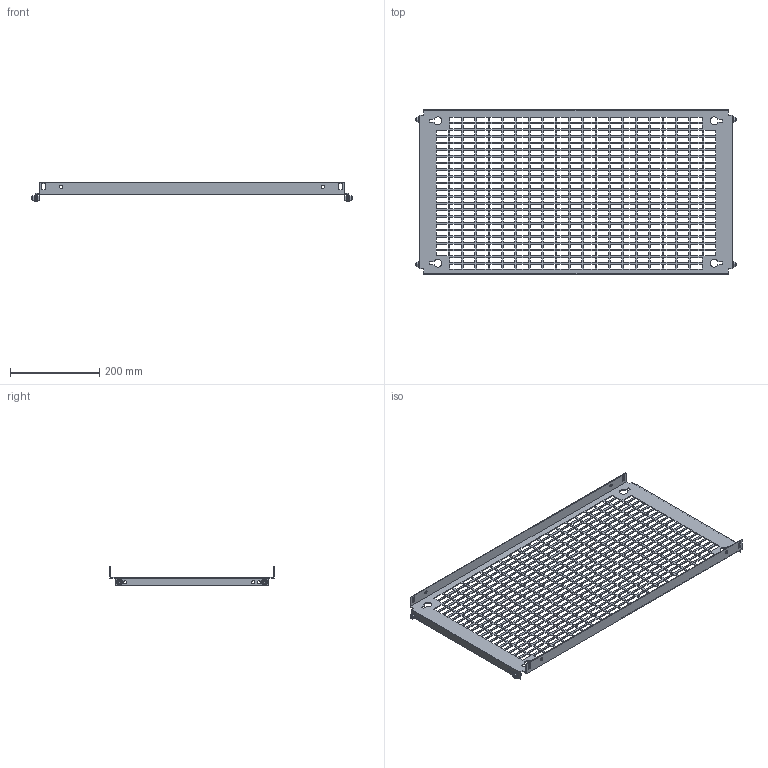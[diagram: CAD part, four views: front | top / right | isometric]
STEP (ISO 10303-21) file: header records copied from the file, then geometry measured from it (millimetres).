
FILE_DESCRIPTION(('Open CASCADE Model'),'2;1');
FILE_NAME('Open CASCADE Shape Model','2025-02-19T16:49:20',('Author'),( 'Open CASCADE'),'Open CASCADE STEP processor 7.8','Open CASCADE 7.8' ,'Unknown');
FILE_SCHEMA(('AUTOMOTIVE_DESIGN { 1 0 10303 214 1 1 1 1 }'));
Length unit declared in the file: millimetre
Products named in the file (4): Compound1; Solid1; Solid2; Solid3
Assembly tree (9 placements, depth 2):
  Compound1
    Solid1
    Solid2  x4
    Solid3  x4
Bounding box: 720 x 369 x 43 mm (x, y, z)
Volume: 334800.3 mm3; surface area: 410431.8 mm2
Topology: 9 solids, 9 shells, 2192 faces, 6405 edges, 4235 vertices
Faces by surface type: plane 2034, cone 68, bspline 48, cylinder 30, torus 12
Full cylindrical faces by diameter (mm): 5 x4, 6 x8, 7 x14
Entity records: 69390 total; most frequent: CARTESIAN_POINT 12743, ORIENTED_EDGE 12132, DIRECTION 10122, EDGE_CURVE 6066, LINE 5908, VECTOR 5908, VERTEX_POINT 4037, FACE_BOUND 3033
